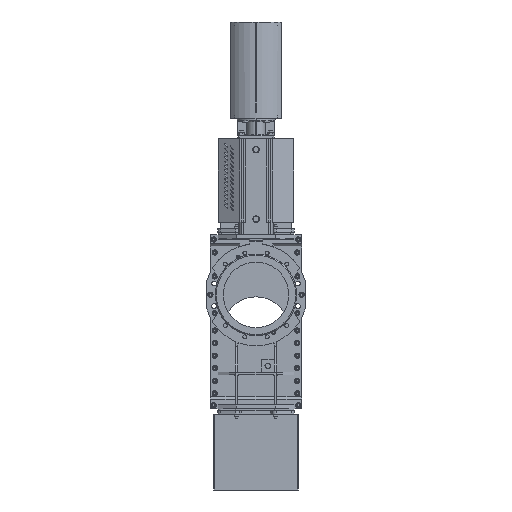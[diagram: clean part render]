
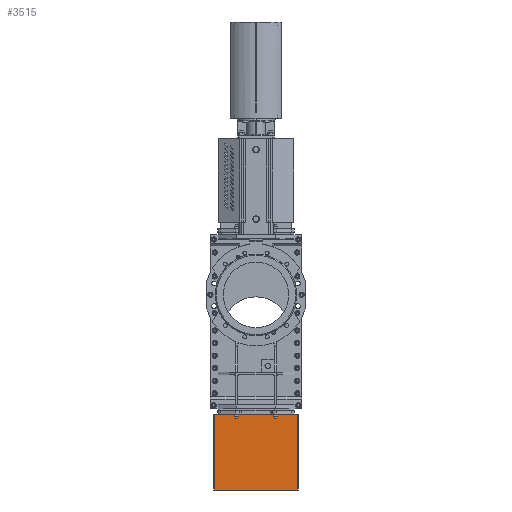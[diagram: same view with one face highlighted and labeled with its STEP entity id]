
A CAD part, left-side view. The second image highlights one B-rep face of the part: STEP entity #3515.
In plain terms, the highlighted planar face has unit normal (-1, 0, 0).
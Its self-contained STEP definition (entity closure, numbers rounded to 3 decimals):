
#3515=ADVANCED_FACE('',(#10618),#10619,.T.);
#10618=FACE_OUTER_BOUND('',#18313,.T.);
#10619=PLANE('',#18314);
#18313=EDGE_LOOP('',(#44045,#44046,#44047,#44048));
#18314=AXIS2_PLACEMENT_3D('',#44049,#44050,#44051);
#44045=ORIENTED_EDGE('',*,*,#55267,.T.);
#44046=ORIENTED_EDGE('',*,*,#55268,.F.);
#44047=ORIENTED_EDGE('',*,*,#55269,.T.);
#44048=ORIENTED_EDGE('',*,*,#55263,.T.);
#44049=CARTESIAN_POINT('',(-13.5,-193.,-725.25));
#44050=DIRECTION('',(-1.,0.,0.));
#44051=DIRECTION('',(0.,0.,1.));
#55263=EDGE_CURVE('',#68792,#68836,#68838,.T.);
#55267=EDGE_CURVE('',#68836,#68842,#68843,.T.);
#55268=EDGE_CURVE('',#68844,#68842,#68845,.T.);
#55269=EDGE_CURVE('',#68844,#68792,#68846,.T.);
#68792=VERTEX_POINT('',#95769);
#68836=VERTEX_POINT('',#95834);
#68838=LINE('',#95836,#95837);
#68842=VERTEX_POINT('',#95842);
#68843=LINE('',#95843,#95844);
#68844=VERTEX_POINT('',#95845);
#68845=LINE('',#95846,#95847);
#68846=LINE('',#95848,#95849);
#95769=CARTESIAN_POINT('',(-13.5,-193.,-551.5));
#95834=CARTESIAN_POINT('',(-13.5,192.,-551.5));
#95836=CARTESIAN_POINT('',(-13.5,-193.,-551.5));
#95837=VECTOR('',#110290,10.);
#95842=CARTESIAN_POINT('',(-13.5,192.,-899.));
#95843=CARTESIAN_POINT('',(-13.5,192.,-551.5));
#95844=VECTOR('',#110298,10.);
#95845=CARTESIAN_POINT('',(-13.5,-193.,-899.));
#95846=CARTESIAN_POINT('',(-13.5,-193.,-899.));
#95847=VECTOR('',#110299,10.);
#95848=CARTESIAN_POINT('',(-13.5,-193.,-899.));
#95849=VECTOR('',#110300,10.);
#110290=DIRECTION('',(0.,1.,0.));
#110298=DIRECTION('',(0.,0.,-1.));
#110299=DIRECTION('',(0.,1.,0.));
#110300=DIRECTION('',(0.,0.,1.));
